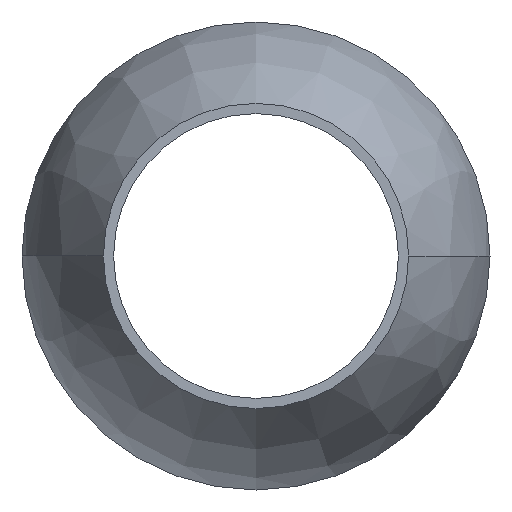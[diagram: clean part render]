
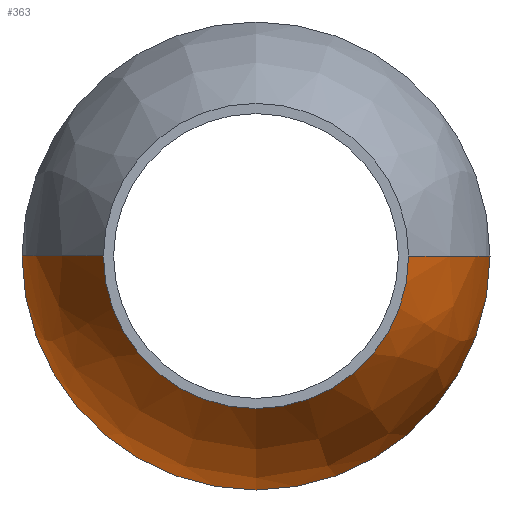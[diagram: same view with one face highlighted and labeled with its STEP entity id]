
A CAD part, front view. The second image highlights one B-rep face of the part: STEP entity #363.
In plain terms, the highlighted free-form (B-spline) face has degree [3, 3] with [4, 4] control points.
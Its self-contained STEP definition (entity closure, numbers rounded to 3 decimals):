
#3 = CIRCLE ( 'NONE', #564, 1.5 ) ;
#25 = VERTEX_POINT ( 'NONE', #432 ) ;
#37 = CARTESIAN_POINT ( 'NONE',  ( 0., 11.2, -2.3 ) ) ;
#53 = CARTESIAN_POINT ( 'NONE',  ( -2.274, 10.408, -4.548 ) ) ;
#74 = VERTEX_POINT ( 'NONE', #662 ) ;
#102 = ORIENTED_EDGE ( 'NONE', *, *, #283, .F. ) ;
#107 = CARTESIAN_POINT ( 'NONE',  ( 2.3, 11.2, 0. ) ) ;
#111 = CARTESIAN_POINT ( 'NONE',  ( -2.274, 10.408, 0. ) ) ;
#118 = CARTESIAN_POINT ( 'NONE',  ( -2.274, 10.408, 0. ) ) ;
#142 = CARTESIAN_POINT ( 'NONE',  ( 0., 11.2, 0. ) ) ;
#160 = CARTESIAN_POINT ( 'NONE',  ( -1.5, 9., 0. ) ) ;
#165 = DIRECTION ( 'NONE',  ( 0., 0., -1. ) ) ;
#166 = CARTESIAN_POINT ( 'NONE',  ( 0., 11.2, 0. ) ) ;
#168 = VERTEX_POINT ( 'NONE', #37 ) ;
#172 = CARTESIAN_POINT ( 'NONE',  ( 2.3, 11.2, 0. ) ) ;
#175 = CARTESIAN_POINT ( 'NONE',  ( -1.5, 9., 0. ) ) ;
#191 = VERTEX_POINT ( 'NONE', #329 ) ;
#195 = DIRECTION ( 'NONE',  ( 0., 0., -1. ) ) ;
#205 = CIRCLE ( 'NONE', #539, 2.3 ) ;
#228 = CARTESIAN_POINT ( 'NONE',  ( 0., 9., 0. ) ) ;
#229 = DIRECTION ( 'NONE',  ( 0., 0., -1. ) ) ;
#234 = CARTESIAN_POINT ( 'NONE',  ( 2.3, 11.2, -4.6 ) ) ;
#238 = CARTESIAN_POINT ( 'NONE',  ( -1.952, 9.642, 0. ) ) ;
#256 = EDGE_CURVE ( 'NONE', #597, #191, #336, .T. ) ;
#280 = CARTESIAN_POINT ( 'NONE',  ( 1.5, 9., 0. ) ) ;
#283 = EDGE_CURVE ( 'NONE', #74, #597, #3, .T. ) ;
#301 = EDGE_CURVE ( 'NONE', #191, #25, #527, .T. ) ;
#311 = B_SPLINE_CURVE_WITH_KNOTS ( 'NONE', 3,
 ( #160, #514, #111, #332 ),
 .UNSPECIFIED., .F., .F.,
 ( 4, 4 ),
 ( 0., 1. ),
 .UNSPECIFIED. ) ;
#329 = CARTESIAN_POINT ( 'NONE',  ( 1.5, 9., 0. ) ) ;
#332 = CARTESIAN_POINT ( 'NONE',  ( -2.3, 11.2, 0. ) ) ;
#336 = CIRCLE ( 'NONE', #444, 1.5 ) ;
#340 = CARTESIAN_POINT ( 'NONE',  ( -2.3, 11.2, -4.6 ) ) ;
#343 = DIRECTION ( 'NONE',  ( 0., -1., 0. ) ) ;
#363 = ADVANCED_FACE ( 'NONE', ( #673 ), #703, .T. ) ;
#367 = ORIENTED_EDGE ( 'NONE', *, *, #438, .T. ) ;
#393 = EDGE_LOOP ( 'NONE', ( #102, #417, #367, #530, #727, #697 ) ) ;
#395 = AXIS2_PLACEMENT_3D ( 'NONE', #166, #579, #229 ) ;
#404 = EDGE_CURVE ( 'NONE', #74, #754, #311, .T. ) ;
#417 = ORIENTED_EDGE ( 'NONE', *, *, #404, .T. ) ;
#432 = CARTESIAN_POINT ( 'NONE',  ( 2.3, 11.2, 0. ) ) ;
#438 = EDGE_CURVE ( 'NONE', #754, #168, #631, .T. ) ;
#444 = AXIS2_PLACEMENT_3D ( 'NONE', #228, #520, #165 ) ;
#465 = CARTESIAN_POINT ( 'NONE',  ( -2.3, 11.2, 0. ) ) ;
#471 = CARTESIAN_POINT ( 'NONE',  ( -1.5, 9., -3. ) ) ;
#510 = DIRECTION ( 'NONE',  ( 0., 0., -1. ) ) ;
#514 = CARTESIAN_POINT ( 'NONE',  ( -1.952, 9.642, 0. ) ) ;
#515 = CARTESIAN_POINT ( 'NONE',  ( -2.3, 11.2, 0. ) ) ;
#520 = DIRECTION ( 'NONE',  ( 0., -1., 0. ) ) ;
#527 = B_SPLINE_CURVE_WITH_KNOTS ( 'NONE', 3,
 ( #280, #576, #632, #107 ),
 .UNSPECIFIED., .F., .F.,
 ( 4, 4 ),
 ( 0., 1. ),
 .UNSPECIFIED. ) ;
#528 = CARTESIAN_POINT ( 'NONE',  ( 2.274, 10.408, -4.548 ) ) ;
#530 = ORIENTED_EDGE ( 'NONE', *, *, #560, .T. ) ;
#539 = AXIS2_PLACEMENT_3D ( 'NONE', #142, #554, #195 ) ;
#554 = DIRECTION ( 'NONE',  ( 0., -1., 0. ) ) ;
#560 = EDGE_CURVE ( 'NONE', #168, #25, #205, .T. ) ;
#564 = AXIS2_PLACEMENT_3D ( 'NONE', #690, #343, #510 ) ;
#576 = CARTESIAN_POINT ( 'NONE',  ( 1.952, 9.642, 0. ) ) ;
#579 = DIRECTION ( 'NONE',  ( 0., -1., 0. ) ) ;
#585 = CARTESIAN_POINT ( 'NONE',  ( 2.274, 10.408, 0. ) ) ;
#587 = CARTESIAN_POINT ( 'NONE',  ( 1.5, 9., 0. ) ) ;
#594 = CARTESIAN_POINT ( 'NONE',  ( 0., 9., -1.5 ) ) ;
#597 = VERTEX_POINT ( 'NONE', #594 ) ;
#628 = CARTESIAN_POINT ( 'NONE',  ( 1.5, 9., -3. ) ) ;
#631 = CIRCLE ( 'NONE', #395, 2.3 ) ;
#632 = CARTESIAN_POINT ( 'NONE',  ( 2.274, 10.408, 0. ) ) ;
#641 = CARTESIAN_POINT ( 'NONE',  ( -1.952, 9.642, -3.905 ) ) ;
#662 = CARTESIAN_POINT ( 'NONE',  ( -1.5, 9., 0. ) ) ;
#673 = FACE_OUTER_BOUND ( 'NONE', #393, .T. ) ;
#690 = CARTESIAN_POINT ( 'NONE',  ( 0., 9., 0. ) ) ;
#697 = ORIENTED_EDGE ( 'NONE', *, *, #256, .F. ) ;
#703 =( BOUNDED_SURFACE ( )  B_SPLINE_SURFACE ( 3, 3, ( 
 ( #175, #471, #628, #587 ),
 ( #238, #641, #737, #741 ),
 ( #118, #53, #528, #585 ),
 ( #465, #340, #234, #172 ) ),
 .UNSPECIFIED., .F., .F., .F. ) 
 B_SPLINE_SURFACE_WITH_KNOTS ( ( 4, 4 ),
 ( 4, 4 ),
 ( 0., 1. ),
 ( 0., 1. ),
 .UNSPECIFIED. ) 
 GEOMETRIC_REPRESENTATION_ITEM ( )  RATIONAL_B_SPLINE_SURFACE ( (
 ( 1., 0.333, 0.333, 1.),
 ( 1., 0.333, 0.333, 1.),
 ( 1., 0.333, 0.333, 1.),
 ( 1., 0.333, 0.333, 1.) ) ) 
 REPRESENTATION_ITEM ( '' )  SURFACE ( )  );
#727 = ORIENTED_EDGE ( 'NONE', *, *, #301, .F. ) ;
#737 = CARTESIAN_POINT ( 'NONE',  ( 1.952, 9.642, -3.905 ) ) ;
#741 = CARTESIAN_POINT ( 'NONE',  ( 1.952, 9.642, 0. ) ) ;
#754 = VERTEX_POINT ( 'NONE', #515 ) ;
